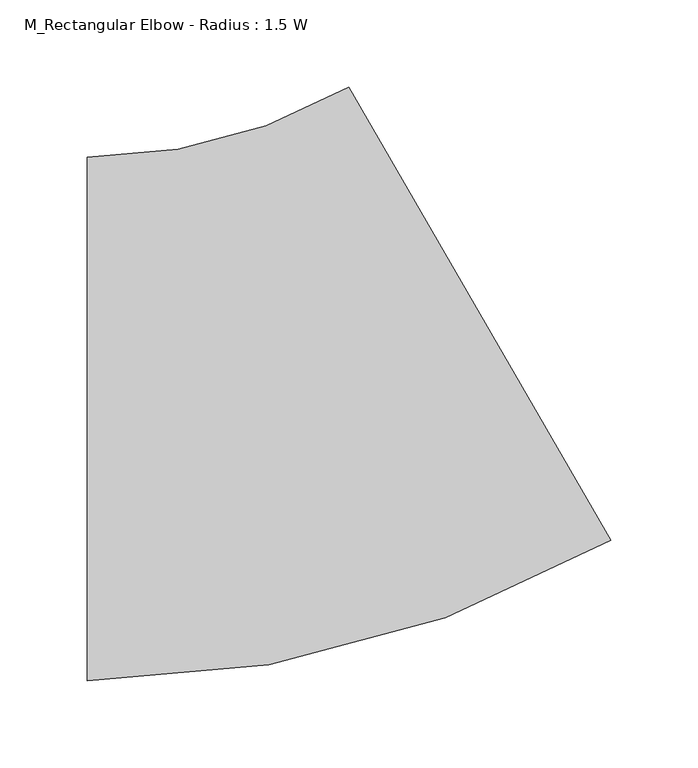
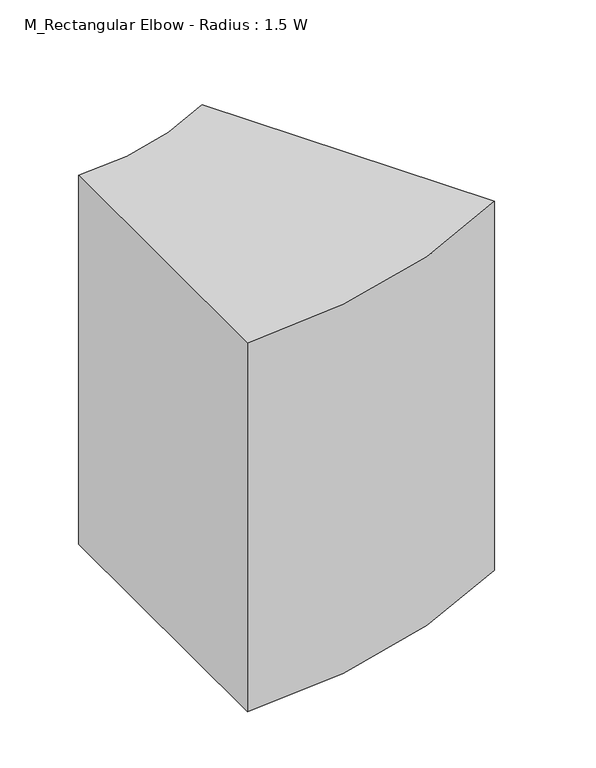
"""IFC4 building model written with IfcOpenShell, lengths in millimetres: duct fitting geometry, M_Rectangular Elbow - Radius : 1.5 W."""

from ifc_helpers import new_model, si_unit, point, frame, frame_2d, origin, place, context, project, spatial, polyline, circle_curve, trimmed, segment, composite_curve, outline, extrude, source, transform, mapped, element, save


def m_rectangular_elbow_radius_1_5_w_020c572a(model_context):
    return source(origin(), model_context, "Body", "SweptSolid", [
        extrude(outline(composite_curve([segment(trimmed(circle_curve(frame_2d((-120.5771842, 450.0)), 600.0), [point((179.4229184, -69.6151831))], [point((-120.5771842, -150.0))], False, "CARTESIAN"), True, "CONTINUOUS"), segment(polyline([(-120.5771842, -150.0), (-120.5771842, 150.0)]), True, "CONTINUOUS"), segment(trimmed(circle_curve(frame_2d((-120.5771842, 450.0)), 300.0), [point((-120.5771842, 150.0))], [point((29.4228671, 190.1924085))], True, "CARTESIAN"), True, "CONTINUOUS"), segment(polyline([(29.4228671, 190.1924085), (179.4229184, -69.6151831)]), True, "CONTINUOUS")], self_intersect=False)), frame((0.0, 0.0, -200.0), z_axis=(0.0, 0.0, 1.0), x_axis=(1.0, 0.0, 0.0)), (0.0, 0.0, 1.0), 400.0),
    ])


if __name__ == "__main__":
    model = new_model("IFC4")
    model_context = context("Model", 3, world=origin())
    ifc_project = project(units=[si_unit("LENGTHUNIT", "METRE", prefix="MILLI")], contexts=[model_context])
    site = spatial("IfcSite", under=ifc_project)
    building = spatial("IfcBuilding", under=site)
    placement = place(None, origin())
    m_rectangular_elbow_radius_1_5_w_shape = m_rectangular_elbow_radius_1_5_w_020c572a(model_context)
    element("IfcDuctFitting", 1, ObjectType="M_Rectangular Elbow - Radius : 1.5 W", at=placement, inside=building, context=model_context, shape_type="MappedRepresentation", body=[
        mapped(m_rectangular_elbow_radius_1_5_w_shape, transform((0.0, 0.0, 0.0), x_axis=(1.0, 0.0, 0.0), y_axis=(0.0, 1.0, 0.0), z_axis=(0.0, 0.0, 1.0))),
    ])
    save(model, "model.ifc")
